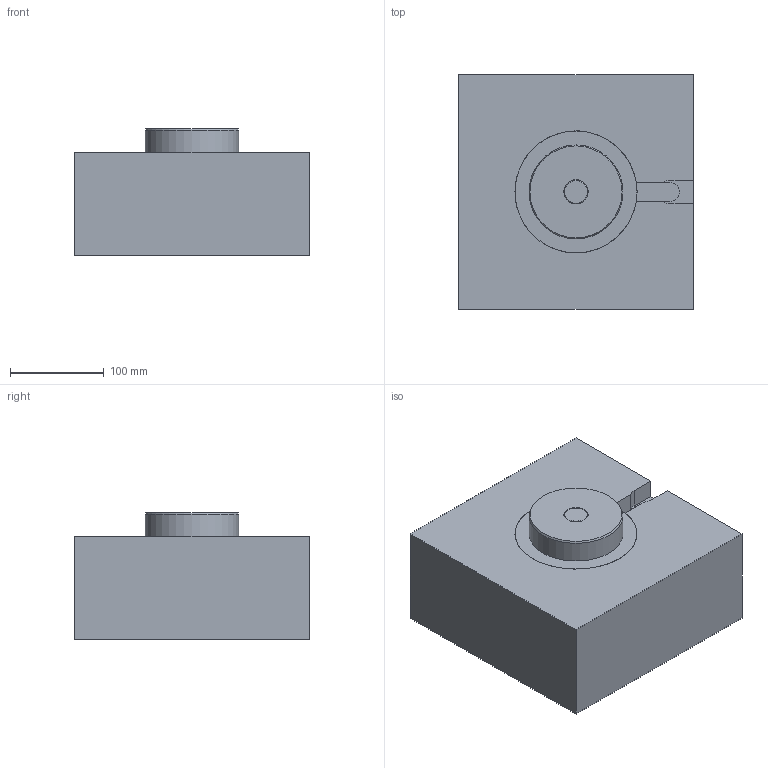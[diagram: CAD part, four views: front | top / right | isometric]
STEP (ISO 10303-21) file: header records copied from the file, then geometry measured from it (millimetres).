
FILE_DESCRIPTION( ( 'STEP AP214' ), '1' );
FILE_NAME( 'S:/PROIECTE_YUDO_2009_dupa_1.07.2009/PROIECTE YUDO 3D 01.07.2009/BLS/YUEU09-BLS25CF080_1.5/YUEU09-BLS25CF080.step', '2009-09-25T12:28:06', ( ' ' ), ( ' ' ), 'XStep 1.0', ' ', ' ' );
FILE_SCHEMA( ( 'automotive_design' ) );
Length unit declared in the file: millimetre
Products named in the file (6): 1; 2; 3; 4; 5; 6
Bounding box: 250 x 250 x 135 mm (x, y, z)
Volume: 6961210 mm3; surface area: 331399.9 mm2
Topology: 6 solids, 6 shells, 153 faces, 335 edges, 210 vertices
Faces by surface type: plane 68, cylinder 49, cone 25, torus 8, bspline 2, sphere 1
Full cylindrical faces by diameter (mm): 12 x2, 20 x2, 22.9 x1, 24.991 x1, 25 x4, 25.1 x1, 28 x2, 29 x1, 32 x1, 33.5 x1, 33.547 x1, 34 x1, 37 x2, 38 x3, 40 x1, 44.998 x1, 45 x1, 61.8 x1, 62.8 x2, 100 x1, 130 x1
Entity records: 5211 total; most frequent: CARTESIAN_POINT 769, DIRECTION 682, ORIENTED_EDGE 526, AXIS2_PLACEMENT_3D 286, EDGE_CURVE 263, EDGE_LOOP 242, VERTEX_POINT 205, FACE_OUTER_BOUND 195
